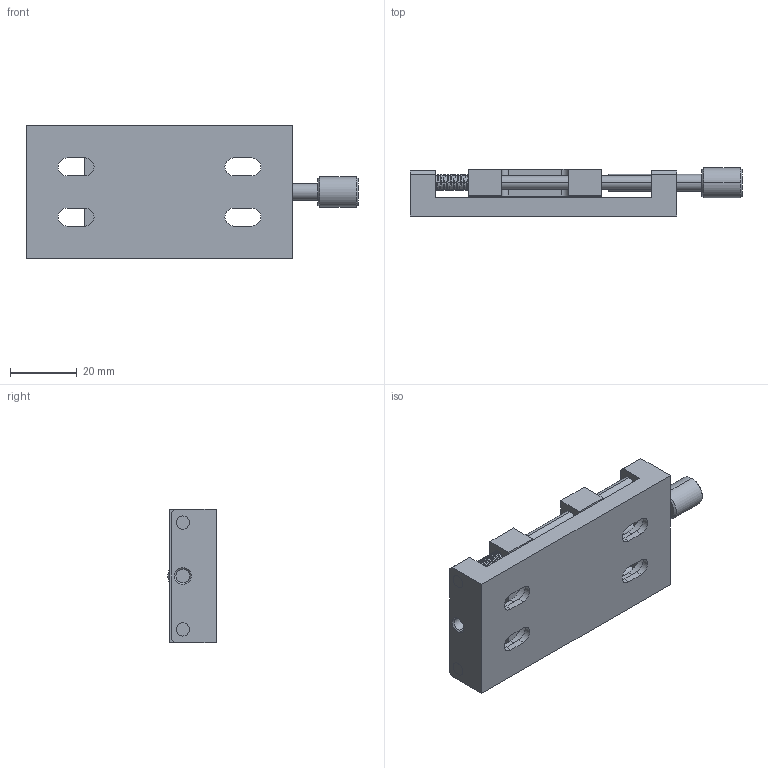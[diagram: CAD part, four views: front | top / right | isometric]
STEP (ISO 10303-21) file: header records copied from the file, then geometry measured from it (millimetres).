
FILE_DESCRIPTION (( 'STEP AP203' ), '1' );
FILE_NAME ('BHJ40.STEP', '2024-02-28T02:15:36', ( 'China' ), ( 'Microsoft' ), 'SwSTEP 2.0', 'SolidWorks 2024', '' );
FILE_SCHEMA (( 'CONFIG_CONTROL_DESIGN' ));
Length unit declared in the file: millimetre
Products named in the file (1): BHJ40
Bounding box: 99.5 x 14.5 x 40 mm (x, y, z)
Volume: 32470.6 mm3; surface area: 18373.6 mm2
Topology: 7 solids, 7 shells, 167 faces, 420 edges, 264 vertices
Faces by surface type: cylinder 66, plane 59, cone 34, bspline 8
Entity records: 15507 total; most frequent: CARTESIAN_POINT 11252, DIRECTION 916, ORIENTED_EDGE 840, EDGE_CURVE 420, AXIS2_PLACEMENT_3D 344, VERTEX_POINT 264, LINE 228, VECTOR 228
